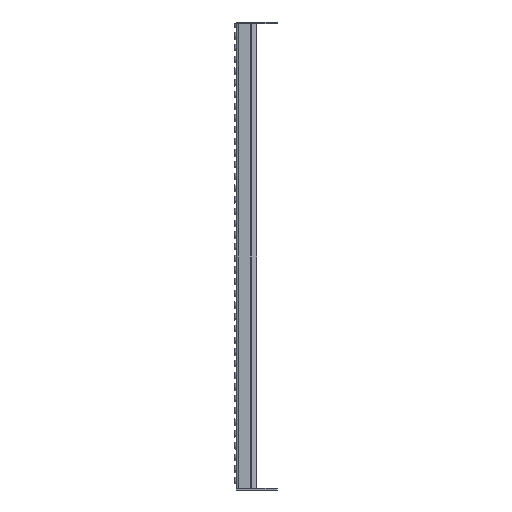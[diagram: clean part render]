
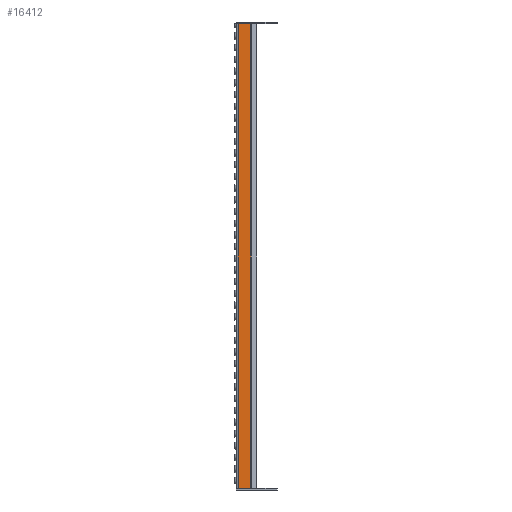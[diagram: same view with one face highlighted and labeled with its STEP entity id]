
A CAD part, left-side view. The second image highlights one B-rep face of the part: STEP entity #16412.
In plain terms, the highlighted planar face has unit normal (-1, 0, 0).
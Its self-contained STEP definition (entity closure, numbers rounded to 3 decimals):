
#1987=FACE_OUTER_BOUND('',#3154,.T.);
#3154=EDGE_LOOP('',(#13335,#13336,#13337,#13338));
#4285=LINE('',#29085,#6029);
#4296=LINE('',#29115,#6040);
#4306=LINE('',#29138,#6050);
#4313=LINE('',#29153,#6057);
#6029=VECTOR('',#21037,10.);
#6040=VECTOR('',#21062,10.);
#6050=VECTOR('',#21084,10.);
#6057=VECTOR('',#21103,10.);
#7856=VERTEX_POINT('',#29082);
#7857=VERTEX_POINT('',#29084);
#7869=VERTEX_POINT('',#29114);
#7876=VERTEX_POINT('',#29137);
#9763=EDGE_CURVE('',#7857,#7856,#4285,.T.);
#9778=EDGE_CURVE('',#7856,#7869,#4296,.T.);
#9790=EDGE_CURVE('',#7876,#7857,#4306,.T.);
#9798=EDGE_CURVE('',#7869,#7876,#4313,.T.);
#13335=ORIENTED_EDGE('',*,*,#9778,.T.);
#13336=ORIENTED_EDGE('',*,*,#9798,.T.);
#13337=ORIENTED_EDGE('',*,*,#9790,.T.);
#13338=ORIENTED_EDGE('',*,*,#9763,.T.);
#15403=PLANE('',#17887);
#16412=ADVANCED_FACE('',(#1987),#15403,.T.);
#17887=AXIS2_PLACEMENT_3D('',#29154,#21104,#21105);
#21037=DIRECTION('',(0.,1.,0.));
#21062=DIRECTION('',(0.,0.,-1.));
#21084=DIRECTION('',(0.,0.,1.));
#21103=DIRECTION('',(0.,-1.,0.));
#21104=DIRECTION('center_axis',(-1.,0.,0.));
#21105=DIRECTION('ref_axis',(0.,0.,1.));
#29082=CARTESIAN_POINT('',(0.,-3.25,794.));
#29084=CARTESIAN_POINT('',(0.,-24.427,794.));
#29085=CARTESIAN_POINT('',(0.,0.,794.));
#29114=CARTESIAN_POINT('',(0.,-3.25,0.));
#29115=CARTESIAN_POINT('',(0.,-3.25,0.));
#29137=CARTESIAN_POINT('',(0.,-24.427,0.));
#29138=CARTESIAN_POINT('',(0.,-24.427,198.5));
#29153=CARTESIAN_POINT('',(0.,0.,0.));
#29154=CARTESIAN_POINT('Origin',(0.,-25.,0.));
